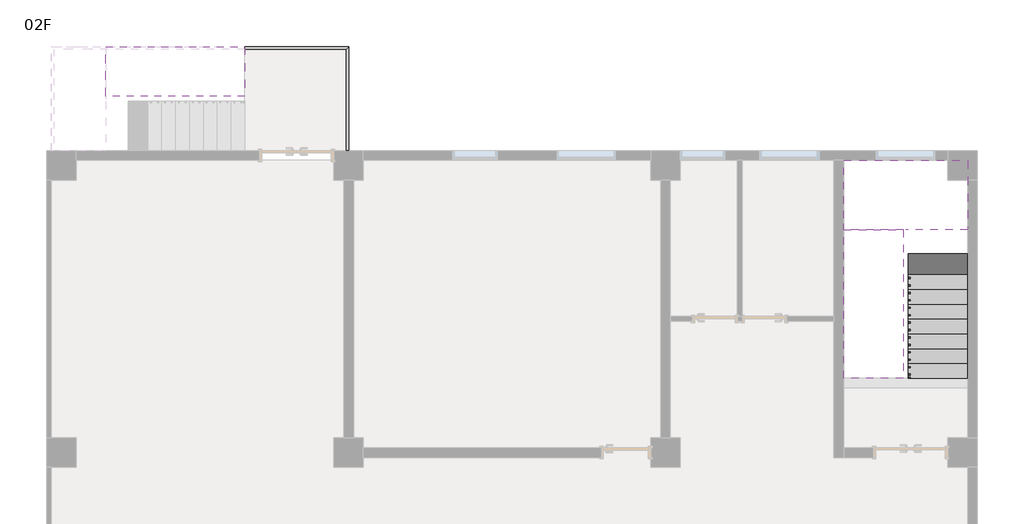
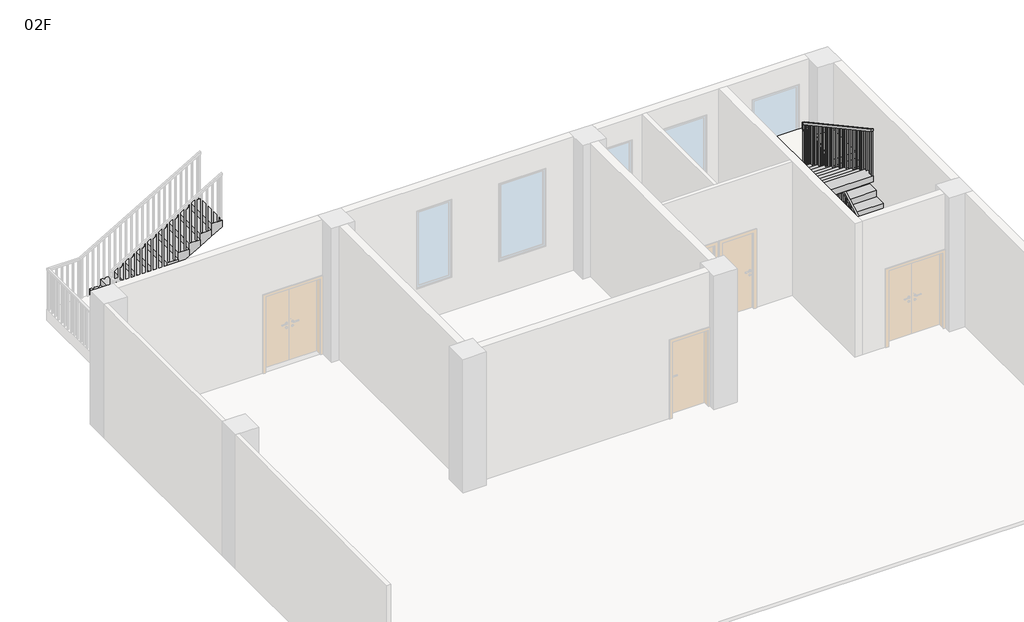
# One storey, part 3 of 3: 3 stair flights, 2 railings, 1 slab.
"""IFC4 building model written with IfcOpenShell, lengths in millimetres."""

from ifc_helpers import new_model, si_unit, frame, origin, place, context, project, spatial, polyline, outline, extrude, faceted_brep, element, save

model = new_model("IFC4")

# Units and contexts
model_context = context("Model", 3, world=origin())
ifc_project = project(units=[si_unit("LENGTHUNIT", "METRE", prefix="MILLI")], contexts=[model_context])

# Site, building, storey
site = spatial("IfcSite", under=ifc_project)
building = spatial("IfcBuilding", under=site)
storey = spatial("IfcBuildingStorey", under=building, Name="02F", Elevation=3600.0)

# Railings
placement = place(None, origin())
element("IfcRailing", 1, ObjectType="1100mm", at=placement, inside=storey, context=model_context, shape_type="SolidModel", body=[
    faceted_brep([(17300.4, 9000.0, 4863.6363636), (17300.4, 9000.0, 4806.6819814), (17350.4, 9000.0, 4806.6819814), (17350.4, 9000.0, 4863.6363636), (17300.4, 11925.4, 6459.3090909), (17300.4, 11975.4, 6429.627436), (17350.4, 11975.4, 6429.627436), (17350.4, 11925.4, 6459.3090909), (17300.4, 11925.4, 6500.0), (17300.4, 11975.4, 6450.0), (17350.4, 11975.4, 6450.0), (17350.4, 11925.4, 6500.0), (17300.4, 12000.4, 6500.0), (17300.4, 12000.4, 6450.0), (17350.4, 12050.4, 6450.0), (17350.4, 12050.4, 6500.0), (17225.4, 12000.4, 6500.0), (17225.4, 12000.4, 6450.0), (17225.4, 12050.4, 6450.0), (17225.4, 12050.4, 6500.0), (17199.6, 12000.4, 6500.0), (17199.6, 12050.4, 6500.0), (17149.6, 12050.4, 6450.0), (17149.6, 12000.4, 6450.0)], [[[0, 1, 2, 3]], [[1, 0, 4, 5]], [[2, 1, 5, 6]], [[3, 2, 6, 7]], [[0, 3, 7, 4]], [[5, 4, 8, 9]], [[6, 5, 9, 10]], [[7, 6, 10, 11]], [[4, 7, 11, 8]], [[9, 8, 12, 13]], [[10, 9, 13, 14]], [[11, 10, 14, 15]], [[8, 11, 15, 12]], [[13, 12, 16, 17]], [[14, 13, 17, 18]], [[15, 14, 18, 19]], [[12, 15, 19, 16]], [[20, 21, 22, 23]], [[17, 16, 20, 23]], [[18, 17, 23, 22]], [[19, 18, 22, 21]], [[16, 19, 21, 20]]]),
    faceted_brep([(17199.6, 12000.4, 6500.0), (17149.6, 12000.4, 6450.0), (17149.6, 12050.4, 6450.0), (17199.6, 12050.4, 6500.0), (17199.6, 12000.4, 6606.4637996), (17199.6, 12050.4, 6636.1454545), (17149.6, 12050.4, 6636.1454545), (17149.6, 12000.4, 6606.4637996)], [[[0, 1, 2, 3]], [[4, 5, 6, 7]], [[1, 0, 4, 7]], [[2, 1, 7, 6]], [[3, 2, 6, 5]], [[0, 3, 5, 4]]]),
    faceted_brep([(17199.6, 12050.4, 6636.1454545), (17199.6, 12000.4, 6606.4637996), (17149.6, 12000.4, 6606.4637996), (17149.6, 12050.4, 6636.1454545), (17199.6, 9000.0, 8300.0), (17149.6, 9000.0, 8300.0), (17149.6, 9000.0, 8243.0456178), (17199.6, 9000.0, 8243.0456178)], [[[0, 1, 2, 3]], [[4, 5, 6, 7]], [[1, 0, 4, 7]], [[2, 1, 7, 6]], [[3, 2, 6, 5]], [[0, 3, 5, 4]]]),
    extrude(outline(polyline([(9112.9, 7036.3636364), (9087.9, 7036.3636364), (9087.9, 8195.1001632), (9112.9, 8181.4637996), (9112.9, 7036.3636364)])), frame((17162.1, 0.0, 0.0), z_axis=(1.0, 0.0, 0.0), x_axis=(0.0, 1.0, 0.0)), (0.0, 0.0, 1.0), 25.0),
    extrude(outline(polyline([(9262.9, 7036.3636364), (9237.9, 7036.3636364), (9237.9, 8113.2819814), (9262.9, 8099.6456178), (9262.9, 7036.3636364)])), frame((17162.1, 0.0, 0.0), z_axis=(1.0, 0.0, 0.0), x_axis=(0.0, 1.0, 0.0)), (0.0, 0.0, 1.0), 25.0),
    extrude(outline(polyline([(9412.9, 6872.7272727), (9387.9, 6872.7272727), (9387.9, 8031.4637996), (9412.9, 8017.827436), (9412.9, 6872.7272727)])), frame((17162.1, 0.0, 0.0), z_axis=(1.0, 0.0, 0.0), x_axis=(0.0, 1.0, 0.0)), (0.0, 0.0, 1.0), 25.0),
    extrude(outline(polyline([(9562.9, 6872.7272727), (9537.9, 6872.7272727), (9537.9, 7949.6456178), (9562.9, 7936.0092542), (9562.9, 6872.7272727)])), frame((17162.1, 0.0, 0.0), z_axis=(1.0, 0.0, 0.0), x_axis=(0.0, 1.0, 0.0)), (0.0, 0.0, 1.0), 25.0),
    extrude(outline(polyline([(9712.9, 6709.0909091), (9687.9, 6709.0909091), (9687.9, 7867.827436), (9712.9, 7854.1910723), (9712.9, 6709.0909091)])), frame((17162.1, 0.0, 0.0), z_axis=(1.0, 0.0, 0.0), x_axis=(0.0, 1.0, 0.0)), (0.0, 0.0, 1.0), 25.0),
    extrude(outline(polyline([(9862.9, 6709.0909091), (9837.9, 6709.0909091), (9837.9, 7786.0092542), (9862.9, 7772.3728905), (9862.9, 6709.0909091)])), frame((17162.1, 0.0, 0.0), z_axis=(1.0, 0.0, 0.0), x_axis=(0.0, 1.0, 0.0)), (0.0, 0.0, 1.0), 25.0),
    extrude(outline(polyline([(10012.9, 6545.4545455), (9987.9, 6545.4545455), (9987.9, 7704.1910723), (10012.9, 7690.5547087), (10012.9, 6545.4545455)])), frame((17162.1, 0.0, 0.0), z_axis=(1.0, 0.0, 0.0), x_axis=(0.0, 1.0, 0.0)), (0.0, 0.0, 1.0), 25.0),
    extrude(outline(polyline([(10162.9, 6545.4545455), (10137.9, 6545.4545455), (10137.9, 7622.3728905), (10162.9, 7608.7365269), (10162.9, 6545.4545455)])), frame((17162.1, 0.0, 0.0), z_axis=(1.0, 0.0, 0.0), x_axis=(0.0, 1.0, 0.0)), (0.0, 0.0, 1.0), 25.0),
    extrude(outline(polyline([(10312.9, 6381.8181818), (10287.9, 6381.8181818), (10287.9, 7540.5547087), (10312.9, 7526.9183451), (10312.9, 6381.8181818)])), frame((17162.1, 0.0, 0.0), z_axis=(1.0, 0.0, 0.0), x_axis=(0.0, 1.0, 0.0)), (0.0, 0.0, 1.0), 25.0),
    extrude(outline(polyline([(10462.9, 6381.8181818), (10437.9, 6381.8181818), (10437.9, 7458.7365269), (10462.9, 7445.1001632), (10462.9, 6381.8181818)])), frame((17162.1, 0.0, 0.0), z_axis=(1.0, 0.0, 0.0), x_axis=(0.0, 1.0, 0.0)), (0.0, 0.0, 1.0), 25.0),
    extrude(outline(polyline([(10612.9, 6218.1818182), (10587.9, 6218.1818182), (10587.9, 7376.9183451), (10612.9, 7363.2819814), (10612.9, 6218.1818182)])), frame((17162.1, 0.0, 0.0), z_axis=(1.0, 0.0, 0.0), x_axis=(0.0, 1.0, 0.0)), (0.0, 0.0, 1.0), 25.0),
    extrude(outline(polyline([(10762.9, 6218.1818182), (10737.9, 6218.1818182), (10737.9, 7295.1001632), (10762.9, 7281.4637996), (10762.9, 6218.1818182)])), frame((17162.1, 0.0, 0.0), z_axis=(1.0, 0.0, 0.0), x_axis=(0.0, 1.0, 0.0)), (0.0, 0.0, 1.0), 25.0),
    extrude(outline(polyline([(10912.9, 6054.5454545), (10887.9, 6054.5454545), (10887.9, 7213.2819814), (10912.9, 7199.6456178), (10912.9, 6054.5454545)])), frame((17162.1, 0.0, 0.0), z_axis=(1.0, 0.0, 0.0), x_axis=(0.0, 1.0, 0.0)), (0.0, 0.0, 1.0), 25.0),
    extrude(outline(polyline([(11062.9, 6054.5454545), (11037.9, 6054.5454545), (11037.9, 7131.4637996), (11062.9, 7117.827436), (11062.9, 6054.5454545)])), frame((17162.1, 0.0, 0.0), z_axis=(1.0, 0.0, 0.0), x_axis=(0.0, 1.0, 0.0)), (0.0, 0.0, 1.0), 25.0),
    extrude(outline(polyline([(11212.9, 5890.9090909), (11187.9, 5890.9090909), (11187.9, 7049.6456178), (11212.9, 7036.0092542), (11212.9, 5890.9090909)])), frame((17162.1, 0.0, 0.0), z_axis=(1.0, 0.0, 0.0), x_axis=(0.0, 1.0, 0.0)), (0.0, 0.0, 1.0), 25.0),
    extrude(outline(polyline([(11362.9, 5890.9090909), (11337.9, 5890.9090909), (11337.9, 6967.827436), (11362.9, 6954.1910723), (11362.9, 5890.9090909)])), frame((17162.1, 0.0, 0.0), z_axis=(1.0, 0.0, 0.0), x_axis=(0.0, 1.0, 0.0)), (0.0, 0.0, 1.0), 25.0),
    extrude(outline(polyline([(11512.9, 5727.2727273), (11487.9, 5727.2727273), (11487.9, 6886.0092542), (11512.9, 6872.3728905), (11512.9, 5727.2727273)])), frame((17162.1, 0.0, 0.0), z_axis=(1.0, 0.0, 0.0), x_axis=(0.0, 1.0, 0.0)), (0.0, 0.0, 1.0), 25.0),
    extrude(outline(polyline([(11662.9, 5727.2727273), (11637.9, 5727.2727273), (11637.9, 6804.1910723), (11662.9, 6790.5547087), (11662.9, 5727.2727273)])), frame((17162.1, 0.0, 0.0), z_axis=(1.0, 0.0, 0.0), x_axis=(0.0, 1.0, 0.0)), (0.0, 0.0, 1.0), 25.0),
    extrude(outline(polyline([(11812.9, 5563.6363636), (11787.9, 5563.6363636), (11787.9, 6722.3728905), (11812.9, 6708.7365269), (11812.9, 5563.6363636)])), frame((17162.1, 0.0, 0.0), z_axis=(1.0, 0.0, 0.0), x_axis=(0.0, 1.0, 0.0)), (0.0, 0.0, 1.0), 25.0),
    extrude(outline(polyline([(11962.9, 5563.6363636), (11937.9, 5563.6363636), (11937.9, 6640.5547087), (11962.9, 6626.9183451), (11962.9, 5563.6363636)])), frame((17162.1, 0.0, 0.0), z_axis=(1.0, 0.0, 0.0), x_axis=(0.0, 1.0, 0.0)), (0.0, 0.0, 1.0), 25.0),
    extrude(outline(polyline([(17262.9, 12012.9), (17237.9, 12012.9), (17237.9, 12037.9), (17262.9, 12037.9), (17262.9, 12012.9)])), frame((0.0, 0.0, 5400.0), z_axis=(0.0, 0.0, 1.0), x_axis=(1.0, 0.0, 0.0)), (0.0, 0.0, 1.0), 1050.0),
    extrude(outline(polyline([(11912.5, 6395.3183451), (11937.5, 6408.9547087), (11937.5, 5236.3636364), (11912.5, 5236.3636364), (11912.5, 6395.3183451)])), frame((17312.9, 0.0, 0.0), z_axis=(1.0, 0.0, 0.0), x_axis=(0.0, 1.0, 0.0)), (0.0, 0.0, 1.0), 25.0),
    extrude(outline(polyline([(11762.5, 6313.5001632), (11787.5, 6327.1365269), (11787.5, 5236.3636364), (11762.5, 5236.3636364), (11762.5, 6313.5001632)])), frame((17312.9, 0.0, 0.0), z_axis=(1.0, 0.0, 0.0), x_axis=(0.0, 1.0, 0.0)), (0.0, 0.0, 1.0), 25.0),
    extrude(outline(polyline([(11612.5, 6231.6819814), (11637.5, 6245.3183451), (11637.5, 5072.7272727), (11612.5, 5072.7272727), (11612.5, 6231.6819814)])), frame((17312.9, 0.0, 0.0), z_axis=(1.0, 0.0, 0.0), x_axis=(0.0, 1.0, 0.0)), (0.0, 0.0, 1.0), 25.0),
    extrude(outline(polyline([(11462.5, 6149.8637996), (11487.5, 6163.5001632), (11487.5, 5072.7272727), (11462.5, 5072.7272727), (11462.5, 6149.8637996)])), frame((17312.9, 0.0, 0.0), z_axis=(1.0, 0.0, 0.0), x_axis=(0.0, 1.0, 0.0)), (0.0, 0.0, 1.0), 25.0),
    extrude(outline(polyline([(11312.5, 6068.0456178), (11337.5, 6081.6819814), (11337.5, 4909.0909091), (11312.5, 4909.0909091), (11312.5, 6068.0456178)])), frame((17312.9, 0.0, 0.0), z_axis=(1.0, 0.0, 0.0), x_axis=(0.0, 1.0, 0.0)), (0.0, 0.0, 1.0), 25.0),
    extrude(outline(polyline([(11162.5, 5986.227436), (11187.5, 5999.8637996), (11187.5, 4909.0909091), (11162.5, 4909.0909091), (11162.5, 5986.227436)])), frame((17312.9, 0.0, 0.0), z_axis=(1.0, 0.0, 0.0), x_axis=(0.0, 1.0, 0.0)), (0.0, 0.0, 1.0), 25.0),
    extrude(outline(polyline([(11012.5, 5904.4092542), (11037.5, 5918.0456178), (11037.5, 4745.4545455), (11012.5, 4745.4545455), (11012.5, 5904.4092542)])), frame((17312.9, 0.0, 0.0), z_axis=(1.0, 0.0, 0.0), x_axis=(0.0, 1.0, 0.0)), (0.0, 0.0, 1.0), 25.0),
    extrude(outline(polyline([(10862.5, 5822.5910723), (10887.5, 5836.227436), (10887.5, 4745.4545455), (10862.5, 4745.4545455), (10862.5, 5822.5910723)])), frame((17312.9, 0.0, 0.0), z_axis=(1.0, 0.0, 0.0), x_axis=(0.0, 1.0, 0.0)), (0.0, 0.0, 1.0), 25.0),
    extrude(outline(polyline([(10712.5, 5740.7728905), (10737.5, 5754.4092542), (10737.5, 4581.8181818), (10712.5, 4581.8181818), (10712.5, 5740.7728905)])), frame((17312.9, 0.0, 0.0), z_axis=(1.0, 0.0, 0.0), x_axis=(0.0, 1.0, 0.0)), (0.0, 0.0, 1.0), 25.0),
    extrude(outline(polyline([(10562.5, 5658.9547087), (10587.5, 5672.5910723), (10587.5, 4581.8181818), (10562.5, 4581.8181818), (10562.5, 5658.9547087)])), frame((17312.9, 0.0, 0.0), z_axis=(1.0, 0.0, 0.0), x_axis=(0.0, 1.0, 0.0)), (0.0, 0.0, 1.0), 25.0),
    extrude(outline(polyline([(10412.5, 5577.1365269), (10437.5, 5590.7728905), (10437.5, 4418.1818182), (10412.5, 4418.1818182), (10412.5, 5577.1365269)])), frame((17312.9, 0.0, 0.0), z_axis=(1.0, 0.0, 0.0), x_axis=(0.0, 1.0, 0.0)), (0.0, 0.0, 1.0), 25.0),
    extrude(outline(polyline([(10262.5, 5495.3183451), (10287.5, 5508.9547087), (10287.5, 4418.1818182), (10262.5, 4418.1818182), (10262.5, 5495.3183451)])), frame((17312.9, 0.0, 0.0), z_axis=(1.0, 0.0, 0.0), x_axis=(0.0, 1.0, 0.0)), (0.0, 0.0, 1.0), 25.0),
    extrude(outline(polyline([(10112.5, 5413.5001632), (10137.5, 5427.1365269), (10137.5, 4254.5454545), (10112.5, 4254.5454545), (10112.5, 5413.5001632)])), frame((17312.9, 0.0, 0.0), z_axis=(1.0, 0.0, 0.0), x_axis=(0.0, 1.0, 0.0)), (0.0, 0.0, 1.0), 25.0),
    extrude(outline(polyline([(9962.5, 5331.6819814), (9987.5, 5345.3183451), (9987.5, 4254.5454545), (9962.5, 4254.5454545), (9962.5, 5331.6819814)])), frame((17312.9, 0.0, 0.0), z_axis=(1.0, 0.0, 0.0), x_axis=(0.0, 1.0, 0.0)), (0.0, 0.0, 1.0), 25.0),
    extrude(outline(polyline([(9812.5, 5249.8637996), (9837.5, 5263.5001632), (9837.5, 4090.9090909), (9812.5, 4090.9090909), (9812.5, 5249.8637996)])), frame((17312.9, 0.0, 0.0), z_axis=(1.0, 0.0, 0.0), x_axis=(0.0, 1.0, 0.0)), (0.0, 0.0, 1.0), 25.0),
    extrude(outline(polyline([(9662.5, 5168.0456178), (9687.5, 5181.6819814), (9687.5, 4090.9090909), (9662.5, 4090.9090909), (9662.5, 5168.0456178)])), frame((17312.9, 0.0, 0.0), z_axis=(1.0, 0.0, 0.0), x_axis=(0.0, 1.0, 0.0)), (0.0, 0.0, 1.0), 25.0),
    extrude(outline(polyline([(9512.5, 5086.227436), (9537.5, 5099.8637996), (9537.5, 3927.2727273), (9512.5, 3927.2727273), (9512.5, 5086.227436)])), frame((17312.9, 0.0, 0.0), z_axis=(1.0, 0.0, 0.0), x_axis=(0.0, 1.0, 0.0)), (0.0, 0.0, 1.0), 25.0),
    extrude(outline(polyline([(9362.5, 5004.4092542), (9387.5, 5018.0456178), (9387.5, 3927.2727273), (9362.5, 3927.2727273), (9362.5, 5004.4092542)])), frame((17312.9, 0.0, 0.0), z_axis=(1.0, 0.0, 0.0), x_axis=(0.0, 1.0, 0.0)), (0.0, 0.0, 1.0), 25.0),
    extrude(outline(polyline([(9212.5, 4922.5910723), (9237.5, 4936.227436), (9237.5, 3763.6363636), (9212.5, 3763.6363636), (9212.5, 4922.5910723)])), frame((17312.9, 0.0, 0.0), z_axis=(1.0, 0.0, 0.0), x_axis=(0.0, 1.0, 0.0)), (0.0, 0.0, 1.0), 25.0),
    extrude(outline(polyline([(9062.5, 4840.7728905), (9087.5, 4854.4092542), (9087.5, 3763.6363636), (9062.5, 3763.6363636), (9062.5, 4840.7728905)])), frame((17312.9, 0.0, 0.0), z_axis=(1.0, 0.0, 0.0), x_axis=(0.0, 1.0, 0.0)), (0.0, 0.0, 1.0), 25.0),
    extrude(outline(polyline([(17187.1, 12037.9), (17187.1, 12012.9), (17162.1, 12012.9), (17162.1, 12037.9), (17187.1, 12037.9)])), frame((0.0, 0.0, 5400.0), z_axis=(0.0, 0.0, 1.0), x_axis=(1.0, 0.0, 0.0)), (0.0, 0.0, 1.0), 1050.0),
    extrude(outline(polyline([(17312.9, 12012.9), (17312.9, 12037.9), (17337.9, 12037.9), (17337.9, 12012.9), (17312.9, 12012.9)])), frame((0.0, 0.0, 5400.0), z_axis=(0.0, 0.0, 1.0), x_axis=(1.0, 0.0, 0.0)), (0.0, 0.0, 1.0), 1050.0),
    extrude(outline(polyline([(17312.9, 11987.5), (17312.9, 12012.5), (17337.9, 12012.5), (17337.9, 11987.5), (17312.9, 11987.5)])), frame((0.0, 0.0, 5400.0), z_axis=(0.0, 0.0, 1.0), x_axis=(1.0, 0.0, 0.0)), (0.0, 0.0, 1.0), 1050.0),
    extrude(outline(polyline([(9025.0, 7036.3636364), (9000.0, 7036.3636364), (9000.0, 8243.0456178), (9025.0, 8229.4092542), (9025.0, 7036.3636364)])), frame((17162.1, 0.0, 0.0), z_axis=(1.0, 0.0, 0.0), x_axis=(0.0, 1.0, 0.0)), (0.0, 0.0, 1.0), 25.0),
    extrude(outline(polyline([(9000.0, 4806.6819814), (9025.0, 4820.3183451), (9025.0, 3763.6363636), (9000.0, 3763.6363636), (9000.0, 4806.6819814)])), frame((17312.9, 0.0, 0.0), z_axis=(1.0, 0.0, 0.0), x_axis=(0.0, 1.0, 0.0)), (0.0, 0.0, 1.0), 25.0),
])
element("IfcRailing", 2, ObjectType="1100mm", at=placement, inside=storey, context=model_context, shape_type="SolidModel", body=[
    faceted_brep([(3900.0, 15699.6, 4700.0), (3900.0, 15699.6, 4650.0), (3900.0, 15649.6, 4650.0), (3900.0, 15649.6, 4700.0), (6000.0, 15699.6, 4700.0), (6000.0, 15699.6, 4650.0), (5950.0, 15649.6, 4650.0), (5950.0, 15649.6, 4700.0), (6000.0, 13600.0, 4700.0), (5950.0, 13600.0, 4700.0), (5950.0, 13600.0, 4650.0), (6000.0, 13600.0, 4650.0)], [[[0, 1, 2, 3]], [[1, 0, 4, 5]], [[2, 1, 5, 6]], [[3, 2, 6, 7]], [[0, 3, 7, 4]], [[8, 9, 10, 11]], [[5, 4, 8, 11]], [[6, 5, 11, 10]], [[7, 6, 10, 9]], [[4, 7, 9, 8]]]),
    extrude(outline(polyline([(5962.5, 13762.1), (5987.5, 13762.1), (5987.5, 13737.1), (5962.5, 13737.1), (5962.5, 13762.1)])), frame((0.0, 0.0, 3600.0), z_axis=(0.0, 0.0, 1.0), x_axis=(1.0, 0.0, 0.0)), (0.0, 0.0, 1.0), 1050.0),
    extrude(outline(polyline([(5962.5, 14037.1), (5987.5, 14037.1), (5987.5, 14012.1), (5962.5, 14012.1), (5962.5, 14037.1)])), frame((0.0, 0.0, 3600.0), z_axis=(0.0, 0.0, 1.0), x_axis=(1.0, 0.0, 0.0)), (0.0, 0.0, 1.0), 1050.0),
    extrude(outline(polyline([(5962.5, 14312.1), (5987.5, 14312.1), (5987.5, 14287.1), (5962.5, 14287.1), (5962.5, 14312.1)])), frame((0.0, 0.0, 3600.0), z_axis=(0.0, 0.0, 1.0), x_axis=(1.0, 0.0, 0.0)), (0.0, 0.0, 1.0), 1050.0),
    extrude(outline(polyline([(5962.5, 14587.1), (5987.5, 14587.1), (5987.5, 14562.1), (5962.5, 14562.1), (5962.5, 14587.1)])), frame((0.0, 0.0, 3600.0), z_axis=(0.0, 0.0, 1.0), x_axis=(1.0, 0.0, 0.0)), (0.0, 0.0, 1.0), 1050.0),
    extrude(outline(polyline([(5962.5, 14862.1), (5987.5, 14862.1), (5987.5, 14837.1), (5962.5, 14837.1), (5962.5, 14862.1)])), frame((0.0, 0.0, 3600.0), z_axis=(0.0, 0.0, 1.0), x_axis=(1.0, 0.0, 0.0)), (0.0, 0.0, 1.0), 1050.0),
    extrude(outline(polyline([(5962.5, 15137.1), (5987.5, 15137.1), (5987.5, 15112.1), (5962.5, 15112.1), (5962.5, 15137.1)])), frame((0.0, 0.0, 3600.0), z_axis=(0.0, 0.0, 1.0), x_axis=(1.0, 0.0, 0.0)), (0.0, 0.0, 1.0), 1050.0),
    extrude(outline(polyline([(5962.5, 15412.1), (5987.5, 15412.1), (5987.5, 15387.1), (5962.5, 15387.1), (5962.5, 15412.1)])), frame((0.0, 0.0, 3600.0), z_axis=(0.0, 0.0, 1.0), x_axis=(1.0, 0.0, 0.0)), (0.0, 0.0, 1.0), 1050.0),
    extrude(outline(polyline([(5812.5, 15662.1), (5812.5, 15687.1), (5837.5, 15687.1), (5837.5, 15662.1), (5812.5, 15662.1)])), frame((0.0, 0.0, 3600.0), z_axis=(0.0, 0.0, 1.0), x_axis=(1.0, 0.0, 0.0)), (0.0, 0.0, 1.0), 1050.0),
    extrude(outline(polyline([(5537.5, 15662.1), (5537.5, 15687.1), (5562.5, 15687.1), (5562.5, 15662.1), (5537.5, 15662.1)])), frame((0.0, 0.0, 3600.0), z_axis=(0.0, 0.0, 1.0), x_axis=(1.0, 0.0, 0.0)), (0.0, 0.0, 1.0), 1050.0),
    extrude(outline(polyline([(5262.5, 15662.1), (5262.5, 15687.1), (5287.5, 15687.1), (5287.5, 15662.1), (5262.5, 15662.1)])), frame((0.0, 0.0, 3600.0), z_axis=(0.0, 0.0, 1.0), x_axis=(1.0, 0.0, 0.0)), (0.0, 0.0, 1.0), 1050.0),
    extrude(outline(polyline([(4987.5, 15662.1), (4987.5, 15687.1), (5012.5, 15687.1), (5012.5, 15662.1), (4987.5, 15662.1)])), frame((0.0, 0.0, 3600.0), z_axis=(0.0, 0.0, 1.0), x_axis=(1.0, 0.0, 0.0)), (0.0, 0.0, 1.0), 1050.0),
    extrude(outline(polyline([(4712.5, 15662.1), (4712.5, 15687.1), (4737.5, 15687.1), (4737.5, 15662.1), (4712.5, 15662.1)])), frame((0.0, 0.0, 3600.0), z_axis=(0.0, 0.0, 1.0), x_axis=(1.0, 0.0, 0.0)), (0.0, 0.0, 1.0), 1050.0),
    extrude(outline(polyline([(4437.5, 15662.1), (4437.5, 15687.1), (4462.5, 15687.1), (4462.5, 15662.1), (4437.5, 15662.1)])), frame((0.0, 0.0, 3600.0), z_axis=(0.0, 0.0, 1.0), x_axis=(1.0, 0.0, 0.0)), (0.0, 0.0, 1.0), 1050.0),
    extrude(outline(polyline([(4162.5, 15662.1), (4162.5, 15687.1), (4187.5, 15687.1), (4187.5, 15662.1), (4162.5, 15662.1)])), frame((0.0, 0.0, 3600.0), z_axis=(0.0, 0.0, 1.0), x_axis=(1.0, 0.0, 0.0)), (0.0, 0.0, 1.0), 1050.0),
    extrude(outline(polyline([(5962.5, 15662.1), (5962.5, 15687.1), (5987.5, 15687.1), (5987.5, 15662.1), (5962.5, 15662.1)])), frame((0.0, 0.0, 3600.0), z_axis=(0.0, 0.0, 1.0), x_axis=(1.0, 0.0, 0.0)), (0.0, 0.0, 1.0), 1050.0),
    extrude(outline(polyline([(5962.5, 13625.0), (5987.5, 13625.0), (5987.5, 13600.0), (5962.5, 13600.0), (5962.5, 13625.0)])), frame((0.0, 0.0, 3600.0), z_axis=(0.0, 0.0, 1.0), x_axis=(1.0, 0.0, 0.0)), (0.0, 0.0, 1.0), 1050.0),
    extrude(outline(polyline([(3900.0, 15662.1), (3900.0, 15687.1), (3925.0, 15687.1), (3925.0, 15662.1), (3900.0, 15662.1)])), frame((0.0, 0.0, 3600.0), z_axis=(0.0, 0.0, 1.0), x_axis=(1.0, 0.0, 0.0)), (0.0, 0.0, 1.0), 1050.0),
])

# Slab
element("IfcSlab", 3, ObjectType="300mm 厚度", at=placement, inside=storey, context=model_context, shape_type="Brep", body=[
    faceted_brep([(17300.0, 12000.0, 5400.0), (18500.0, 12000.0, 5400.0), (18500.0, 12063.2491022, 5400.0), (18500.0, 13400.0, 5400.0), (16000.0, 13400.0, 5400.0), (16000.0, 12236.7508978, 5400.0), (16000.0, 12000.0, 5400.0), (17200.0, 12000.0, 5400.0), (17300.0, 12000.0, 5100.0), (17300.0, 12000.0, 5065.5004897), (18500.0, 12000.0, 5065.5004897), (18500.0, 12000.0, 5236.3636364), (18500.0, 12063.2491022, 5100.0), (18500.0, 13400.0, 5100.0), (16000.0, 13400.0, 5100.0), (16000.0, 12236.7508978, 5100.0), (16000.0, 12000.0, 5229.1368534), (17200.0, 12000.0, 5229.1368534), (17200.0, 12000.0, 5100.0), (17200.0, 12236.7508978, 5100.0), (17300.0, 12063.2491022, 5100.0)], [[[0, 1, 2, 3, 4, 5, 6, 7]], [[1, 0, 8, 9, 10, 11]], [[1, 11, 10, 12, 13, 3, 2]], [[4, 3, 13, 14]], [[4, 14, 15, 16, 6, 5]], [[7, 6, 16, 17]], [[0, 7, 17, 18, 8]], [[18, 19, 15, 14, 13, 12, 20, 8]], [[19, 18, 17]], [[20, 12, 10, 9]], [[8, 20, 9]], [[15, 19, 17, 16]]]),
])

# Stair flights
element("IfcStairFlight", 4, ObjectType="150mm 结构深度", at=placement, inside=storey, context=model_context, shape_type="Brep", body=[
    faceted_brep([(17300.0, 9300.0, 3763.6363636), (17300.0, 9000.0, 3763.6363636), (18500.0, 9000.0, 3763.6363636), (18500.0, 9300.0, 3763.6363636), (17300.0, 9300.0, 3600.0), (17300.0, 9000.0, 3600.0), (18500.0, 9000.0, 3600.0), (18500.0, 9300.0, 3600.0), (17300.0, 9600.0, 3927.2727273), (17300.0, 9300.0, 3927.2727273), (18500.0, 9300.0, 3927.2727273), (18500.0, 9600.0, 3927.2727273), (17300.0, 9600.0, 3756.4095806), (17300.0, 9313.2491022, 3600.0), (18500.0, 9313.2491022, 3600.0), (18500.0, 9600.0, 3756.4095806), (17300.0, 9900.0, 4090.9090909), (17300.0, 9600.0, 4090.9090909), (18500.0, 9600.0, 4090.9090909), (18500.0, 9900.0, 4090.9090909), (17300.0, 9900.0, 3920.0459443), (18500.0, 9900.0, 3920.0459443), (17300.0, 10200.0, 4254.5454545), (17300.0, 9900.0, 4254.5454545), (18500.0, 9900.0, 4254.5454545), (18500.0, 10200.0, 4254.5454545), (17300.0, 10200.0, 4083.6823079), (18500.0, 10200.0, 4083.6823079), (17300.0, 10500.0, 4418.1818182), (17300.0, 10200.0, 4418.1818182), (18500.0, 10200.0, 4418.1818182), (18500.0, 10500.0, 4418.1818182), (17300.0, 10500.0, 4247.3186716), (18500.0, 10500.0, 4247.3186716), (17300.0, 10800.0, 4581.8181818), (17300.0, 10500.0, 4581.8181818), (18500.0, 10500.0, 4581.8181818), (18500.0, 10800.0, 4581.8181818), (17300.0, 10800.0, 4410.9550352), (18500.0, 10800.0, 4410.9550352), (17300.0, 11100.0, 4745.4545455), (17300.0, 10800.0, 4745.4545455), (18500.0, 10800.0, 4745.4545455), (18500.0, 11100.0, 4745.4545455), (17300.0, 11100.0, 4574.5913988), (18500.0, 11100.0, 4574.5913988), (17300.0, 11400.0, 4909.0909091), (17300.0, 11100.0, 4909.0909091), (18500.0, 11100.0, 4909.0909091), (18500.0, 11400.0, 4909.0909091), (17300.0, 11400.0, 4738.2277625), (18500.0, 11400.0, 4738.2277625), (17300.0, 11700.0, 5072.7272727), (17300.0, 11400.0, 5072.7272727), (18500.0, 11400.0, 5072.7272727), (18500.0, 11700.0, 5072.7272727), (17300.0, 11700.0, 4901.8641261), (18500.0, 11700.0, 4901.8641261), (17300.0, 12000.0, 5236.3636364), (17300.0, 11700.0, 5236.3636364), (18500.0, 11700.0, 5236.3636364), (18500.0, 12000.0, 5236.3636364), (17300.0, 12000.0, 5100.0), (17300.0, 12000.0, 5065.5004897), (18500.0, 12000.0, 5065.5004897)], [[[0, 1, 2, 3]], [[1, 0, 4, 5]], [[2, 1, 5, 6]], [[3, 2, 6, 7]], [[8, 9, 10, 11]], [[4, 0, 9, 8, 12, 13]], [[0, 3, 10, 9]], [[3, 7, 14, 15, 11, 10]], [[16, 17, 18, 19]], [[17, 16, 20, 12, 8]], [[8, 11, 18, 17]], [[19, 18, 11, 15, 21]], [[22, 23, 24, 25]], [[23, 22, 26, 20, 16]], [[16, 19, 24, 23]], [[25, 24, 19, 21, 27]], [[28, 29, 30, 31]], [[29, 28, 32, 26, 22]], [[22, 25, 30, 29]], [[31, 30, 25, 27, 33]], [[34, 35, 36, 37]], [[35, 34, 38, 32, 28]], [[28, 31, 36, 35]], [[37, 36, 31, 33, 39]], [[40, 41, 42, 43]], [[41, 40, 44, 38, 34]], [[34, 37, 42, 41]], [[43, 42, 37, 39, 45]], [[46, 47, 48, 49]], [[47, 46, 50, 44, 40]], [[40, 43, 48, 47]], [[49, 48, 43, 45, 51]], [[52, 53, 54, 55]], [[53, 52, 56, 50, 46]], [[46, 49, 54, 53]], [[55, 54, 49, 51, 57]], [[58, 59, 60, 61]], [[59, 58, 62, 63, 56, 52]], [[52, 55, 60, 59]], [[61, 60, 55, 57, 64]], [[58, 61, 64, 63, 62]], [[5, 4, 13, 14, 7, 6]], [[14, 13, 12, 20, 26, 32, 38, 44, 50, 56, 63, 64, 57, 51, 45, 39, 33, 27, 21, 15]]]),
])
element("IfcStairFlight", 5, ObjectType="150mm 结构深度", at=placement, inside=storey, context=model_context, shape_type="Brep", body=[
    faceted_brep([(17200.0, 11700.0, 5563.6363636), (17200.0, 12000.0, 5563.6363636), (16000.0, 12000.0, 5563.6363636), (16000.0, 11700.0, 5563.6363636), (17200.0, 11700.0, 5392.773217), (17200.0, 12000.0, 5229.1368534), (16000.0, 12000.0, 5229.1368534), (16000.0, 12000.0, 5400.0), (16000.0, 11700.0, 5392.773217), (17200.0, 11400.0, 5727.2727273), (17200.0, 11700.0, 5727.2727273), (16000.0, 11700.0, 5727.2727273), (16000.0, 11400.0, 5727.2727273), (17200.0, 11400.0, 5556.4095806), (16000.0, 11400.0, 5556.4095806), (17200.0, 11100.0, 5890.9090909), (17200.0, 11400.0, 5890.9090909), (16000.0, 11400.0, 5890.9090909), (16000.0, 11100.0, 5890.9090909), (17200.0, 11100.0, 5720.0459443), (16000.0, 11100.0, 5720.0459443), (17200.0, 10800.0, 6054.5454545), (17200.0, 11100.0, 6054.5454545), (16000.0, 11100.0, 6054.5454545), (16000.0, 10800.0, 6054.5454545), (17200.0, 10800.0, 5883.6823079), (16000.0, 10800.0, 5883.6823079), (17200.0, 10500.0, 6218.1818182), (17200.0, 10800.0, 6218.1818182), (16000.0, 10800.0, 6218.1818182), (16000.0, 10500.0, 6218.1818182), (17200.0, 10500.0, 6047.3186716), (16000.0, 10500.0, 6047.3186716), (17200.0, 10200.0, 6381.8181818), (17200.0, 10500.0, 6381.8181818), (16000.0, 10500.0, 6381.8181818), (16000.0, 10200.0, 6381.8181818), (17200.0, 10200.0, 6210.9550352), (16000.0, 10200.0, 6210.9550352), (17200.0, 9900.0, 6545.4545455), (17200.0, 10200.0, 6545.4545455), (16000.0, 10200.0, 6545.4545455), (16000.0, 9900.0, 6545.4545455), (17200.0, 9900.0, 6374.5913988), (16000.0, 9900.0, 6374.5913988), (17200.0, 9600.0, 6709.0909091), (17200.0, 9900.0, 6709.0909091), (16000.0, 9900.0, 6709.0909091), (16000.0, 9600.0, 6709.0909091), (17200.0, 9600.0, 6538.2277625), (16000.0, 9600.0, 6538.2277625), (17200.0, 9300.0, 6872.7272727), (17200.0, 9600.0, 6872.7272727), (16000.0, 9600.0, 6872.7272727), (16000.0, 9300.0, 6872.7272727), (17200.0, 9300.0, 6701.8641261), (16000.0, 9300.0, 6701.8641261), (17200.0, 9000.0, 7036.3636364), (17200.0, 9300.0, 7036.3636364), (16000.0, 9300.0, 7036.3636364), (16000.0, 9000.0, 7036.3636364), (17200.0, 9000.0, 6865.5004897), (16000.0, 9000.0, 6865.5004897)], [[[0, 1, 2, 3]], [[1, 0, 4, 5]], [[2, 1, 5, 6, 7]], [[3, 2, 7, 6, 8]], [[9, 10, 11, 12]], [[10, 9, 13, 4, 0]], [[11, 10, 0, 3]], [[12, 11, 3, 8, 14]], [[15, 16, 17, 18]], [[16, 15, 19, 13, 9]], [[17, 16, 9, 12]], [[18, 17, 12, 14, 20]], [[21, 22, 23, 24]], [[22, 21, 25, 19, 15]], [[23, 22, 15, 18]], [[24, 23, 18, 20, 26]], [[27, 28, 29, 30]], [[28, 27, 31, 25, 21]], [[29, 28, 21, 24]], [[30, 29, 24, 26, 32]], [[33, 34, 35, 36]], [[34, 33, 37, 31, 27]], [[35, 34, 27, 30]], [[36, 35, 30, 32, 38]], [[39, 40, 41, 42]], [[40, 39, 43, 37, 33]], [[41, 40, 33, 36]], [[42, 41, 36, 38, 44]], [[45, 46, 47, 48]], [[46, 45, 49, 43, 39]], [[47, 46, 39, 42]], [[48, 47, 42, 44, 50]], [[51, 52, 53, 54]], [[52, 51, 55, 49, 45]], [[53, 52, 45, 48]], [[54, 53, 48, 50, 56]], [[57, 58, 59, 60]], [[58, 57, 61, 55, 51]], [[59, 58, 51, 54]], [[60, 59, 54, 56, 62]], [[57, 60, 62, 61]], [[5, 4, 13, 19, 25, 31, 37, 43, 49, 55, 61, 62, 56, 50, 44, 38, 32, 26, 20, 14, 8, 6]]]),
])
element("IfcStairFlight", 6, ObjectType="150mm 结构深度", at=placement, inside=storey, context=model_context, shape_type="Brep", body=[
    faceted_brep([(1380.0, 15700.0, 5563.6363636), (1100.0, 15700.0, 5563.6363636), (1100.0, 14700.0, 5563.6363636), (1380.0, 14700.0, 5563.6363636), (1380.0, 15700.0, 5389.8989599), (1100.0, 15700.0, 5226.2625963), (1100.0, 15700.0, 5400.0), (1100.0, 14700.0, 5226.2625963), (1380.0, 14700.0, 5389.8989599), (1660.0, 15700.0, 5727.2727273), (1380.0, 15700.0, 5727.2727273), (1380.0, 14700.0, 5727.2727273), (1660.0, 14700.0, 5727.2727273), (1660.0, 15700.0, 5553.5353236), (1660.0, 14700.0, 5553.5353236), (1940.0, 15700.0, 5890.9090909), (1660.0, 15700.0, 5890.9090909), (1660.0, 14700.0, 5890.9090909), (1940.0, 14700.0, 5890.9090909), (1940.0, 15700.0, 5717.1716872), (1940.0, 14700.0, 5717.1716872), (2220.0, 15700.0, 6054.5454545), (1940.0, 15700.0, 6054.5454545), (1940.0, 14700.0, 6054.5454545), (2220.0, 14700.0, 6054.5454545), (2220.0, 15700.0, 5880.8080508), (2220.0, 14700.0, 5880.8080508), (2500.0, 15700.0, 6218.1818182), (2220.0, 15700.0, 6218.1818182), (2220.0, 14700.0, 6218.1818182), (2500.0, 14700.0, 6218.1818182), (2500.0, 15700.0, 6044.4444145), (2500.0, 14700.0, 6044.4444145), (2780.0, 15700.0, 6381.8181818), (2500.0, 15700.0, 6381.8181818), (2500.0, 14700.0, 6381.8181818), (2780.0, 14700.0, 6381.8181818), (2780.0, 15700.0, 6208.0807781), (2780.0, 14700.0, 6208.0807781), (3060.0, 15700.0, 6545.4545455), (2780.0, 15700.0, 6545.4545455), (2780.0, 14700.0, 6545.4545455), (3060.0, 14700.0, 6545.4545455), (3060.0, 15700.0, 6371.7171418), (3060.0, 14700.0, 6371.7171418), (3340.0, 15700.0, 6709.0909091), (3060.0, 15700.0, 6709.0909091), (3060.0, 14700.0, 6709.0909091), (3340.0, 14700.0, 6709.0909091), (3340.0, 15700.0, 6535.3535054), (3340.0, 14700.0, 6535.3535054), (3620.0, 15700.0, 6872.7272727), (3340.0, 15700.0, 6872.7272727), (3340.0, 14700.0, 6872.7272727), (3620.0, 14700.0, 6872.7272727), (3620.0, 15700.0, 6698.989869), (3620.0, 14700.0, 6698.989869), (3900.0, 15700.0, 7036.3636364), (3620.0, 15700.0, 7036.3636364), (3620.0, 14700.0, 7036.3636364), (3900.0, 14700.0, 7036.3636364), (3900.0, 15700.0, 6862.6262327), (3900.0, 14700.0, 6862.6262327)], [[[0, 1, 2, 3]], [[1, 0, 4, 5, 6]], [[2, 1, 6, 5, 7]], [[3, 2, 7, 8]], [[9, 10, 11, 12]], [[10, 9, 13, 4, 0]], [[11, 10, 0, 3]], [[12, 11, 3, 8, 14]], [[15, 16, 17, 18]], [[16, 15, 19, 13, 9]], [[17, 16, 9, 12]], [[18, 17, 12, 14, 20]], [[21, 22, 23, 24]], [[22, 21, 25, 19, 15]], [[23, 22, 15, 18]], [[24, 23, 18, 20, 26]], [[27, 28, 29, 30]], [[28, 27, 31, 25, 21]], [[29, 28, 21, 24]], [[30, 29, 24, 26, 32]], [[33, 34, 35, 36]], [[34, 33, 37, 31, 27]], [[35, 34, 27, 30]], [[36, 35, 30, 32, 38]], [[39, 40, 41, 42]], [[40, 39, 43, 37, 33]], [[41, 40, 33, 36]], [[42, 41, 36, 38, 44]], [[45, 46, 47, 48]], [[46, 45, 49, 43, 39]], [[47, 46, 39, 42]], [[48, 47, 42, 44, 50]], [[51, 52, 53, 54]], [[52, 51, 55, 49, 45]], [[53, 52, 45, 48]], [[54, 53, 48, 50, 56]], [[57, 58, 59, 60]], [[58, 57, 61, 55, 51]], [[59, 58, 51, 54]], [[60, 59, 54, 56, 62]], [[57, 60, 62, 61]], [[5, 4, 13, 19, 25, 31, 37, 43, 49, 55, 61, 62, 56, 50, 44, 38, 32, 26, 20, 14, 8, 7]]]),
])

save(model, "model.ifc")
